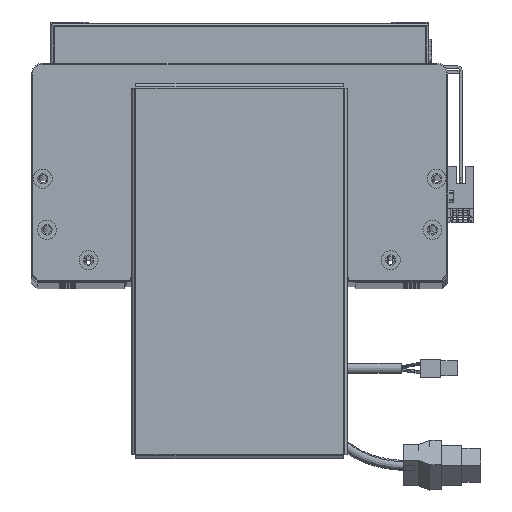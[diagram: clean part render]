
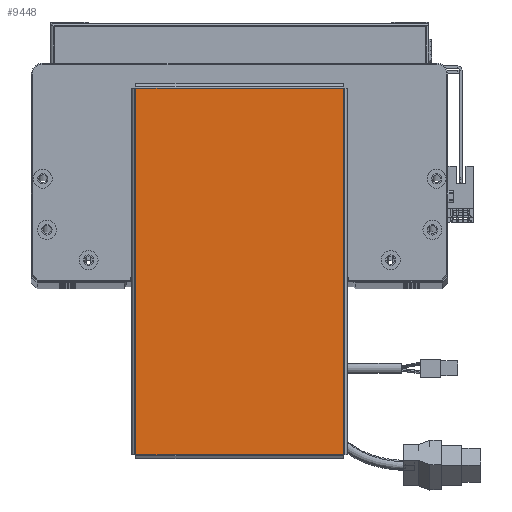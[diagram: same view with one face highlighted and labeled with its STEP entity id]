
A CAD part, top view. The second image highlights one B-rep face of the part: STEP entity #9448.
In plain terms, the highlighted planar face has unit normal (0, 0, 1).
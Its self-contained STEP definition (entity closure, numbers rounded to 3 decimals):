
#1026 = VERTEX_POINT ( 'NONE', #48931 ) ;
#2562 = LINE ( 'NONE', #4859, #23534 ) ;
#2873 = AXIS2_PLACEMENT_3D ( 'NONE', #54826, #21750, #59313 ) ;
#4859 = CARTESIAN_POINT ( 'NONE',  ( 96.793, 54.763, 0. ) ) ;
#5565 = PLANE ( 'NONE',  #2873 ) ;
#9448 = ADVANCED_FACE ( 'NONE', ( #62108 ), #5565, .T. ) ;
#15008 = CARTESIAN_POINT ( 'NONE',  ( -96.763, 54.763, 0. ) ) ;
#16599 = DIRECTION ( 'NONE',  ( -1., 0., 0. ) ) ;
#16670 = CARTESIAN_POINT ( 'NONE',  ( 96.763, 54.763, 0. ) ) ;
#19623 = ORIENTED_EDGE ( 'NONE', *, *, #43982, .T. ) ;
#21750 = DIRECTION ( 'NONE',  ( 0., 0., 1. ) ) ;
#22456 = DIRECTION ( 'NONE',  ( 1., 0., 0. ) ) ;
#23534 = VECTOR ( 'NONE', #16599, 1000. ) ;
#27095 = EDGE_CURVE ( 'NONE', #42925, #39247, #2562, .T. ) ;
#32881 = VECTOR ( 'NONE', #22456, 1000. ) ;
#33444 = ORIENTED_EDGE ( 'NONE', *, *, #57533, .T. ) ;
#35023 = DIRECTION ( 'NONE',  ( 0., 1., 0. ) ) ;
#39247 = VERTEX_POINT ( 'NONE', #15008 ) ;
#39627 = LINE ( 'NONE', #55092, #32881 ) ;
#39924 = LINE ( 'NONE', #56884, #43261 ) ;
#41181 = EDGE_LOOP ( 'NONE', ( #19623, #33444, #57098, #56214 ) ) ;
#42925 = VERTEX_POINT ( 'NONE', #16670 ) ;
#43261 = VECTOR ( 'NONE', #35023, 1000. ) ;
#43982 = EDGE_CURVE ( 'NONE', #1026, #56060, #39627, .T. ) ;
#44399 = DIRECTION ( 'NONE',  ( 0., -1., 0. ) ) ;
#48931 = CARTESIAN_POINT ( 'NONE',  ( -96.763, -54.763, 0. ) ) ;
#53076 = CARTESIAN_POINT ( 'NONE',  ( 96.763, -54.763, 0. ) ) ;
#54826 = CARTESIAN_POINT ( 'NONE',  ( 0., 0., 0. ) ) ;
#55092 = CARTESIAN_POINT ( 'NONE',  ( -96.793, -54.763, 0. ) ) ;
#56060 = VERTEX_POINT ( 'NONE', #53076 ) ;
#56214 = ORIENTED_EDGE ( 'NONE', *, *, #67191, .T. ) ;
#56751 = VECTOR ( 'NONE', #44399, 1000. ) ;
#56884 = CARTESIAN_POINT ( 'NONE',  ( 96.763, -54.793, 0. ) ) ;
#57098 = ORIENTED_EDGE ( 'NONE', *, *, #27095, .T. ) ;
#57533 = EDGE_CURVE ( 'NONE', #56060, #42925, #39924, .T. ) ;
#59313 = DIRECTION ( 'NONE',  ( 1., 0., 0. ) ) ;
#62108 = FACE_OUTER_BOUND ( 'NONE', #41181, .T. ) ;
#66286 = CARTESIAN_POINT ( 'NONE',  ( -96.763, 54.793, 0. ) ) ;
#67191 = EDGE_CURVE ( 'NONE', #39247, #1026, #67697, .T. ) ;
#67697 = LINE ( 'NONE', #66286, #56751 ) ;
